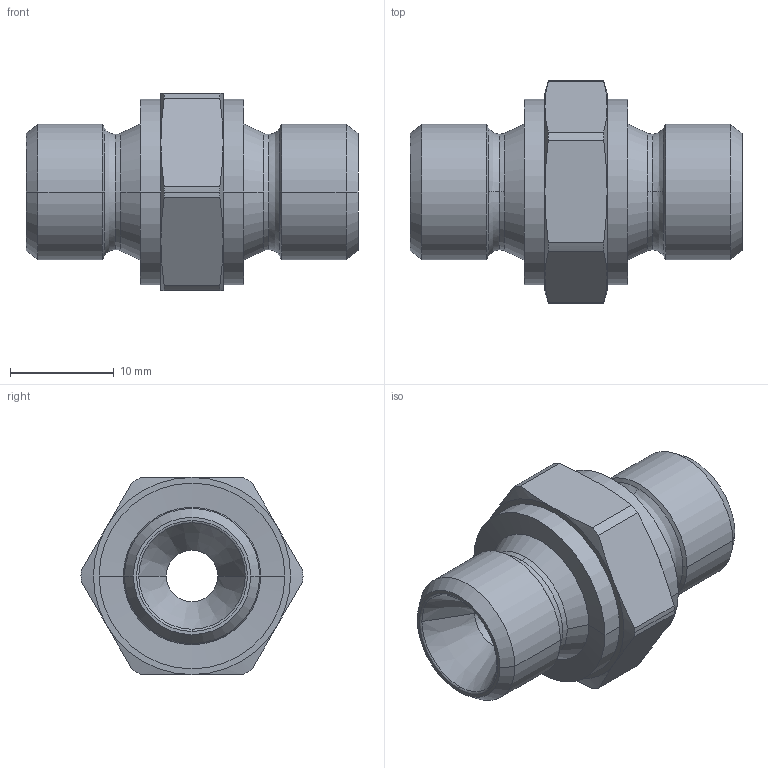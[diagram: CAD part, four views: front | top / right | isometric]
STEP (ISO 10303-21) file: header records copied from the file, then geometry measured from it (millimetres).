
FILE_DESCRIPTION((''),'2;1');
FILE_NAME('300504.stp','2006-09-11T08:08:39',(''),(''),'AutoCAD STEP 2000i','AutoCAD 2000i',', , ');
FILE_SCHEMA(('CONFIG_CONTROL_DESIGN'));
Length unit declared in the file: millimetre
Products named in the file (2): 300504.0; CHIAVE SMUSSATA#0
Assembly tree (1 placements, depth 2):
  300504.0
    CHIAVE SMUSSATA#0
Bounding box: 32 x 21.4 x 19 mm (x, y, z)
Volume: 4693.7 mm3; surface area: 2545.4 mm2
Topology: 1 solids, 1 shells, 72 faces, 170 edges, 102 vertices
Faces by surface type: cone 32, cylinder 18, plane 10, bspline 8, torus 4
Entity records: 2493 total; most frequent: CARTESIAN_POINT 746, DIRECTION 380, ORIENTED_EDGE 340, EDGE_CURVE 170, AXIS2_PLACEMENT_3D 168, VERTEX_POINT 102, CIRCLE 102, EDGE_LOOP 76
